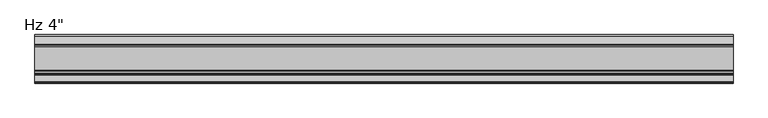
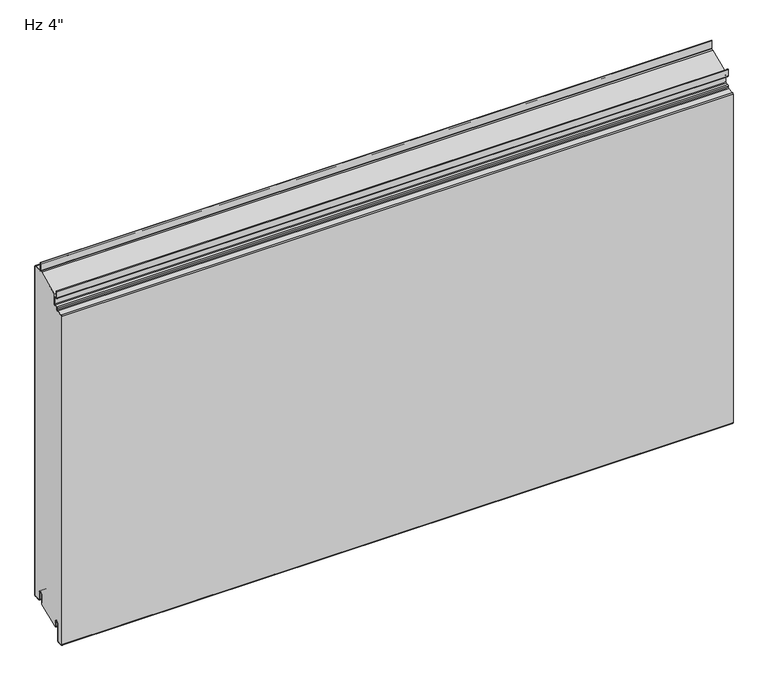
"""IFC4 building model written with IfcOpenShell, lengths in millimetres: plate geometry."""

from ifc_helpers import new_model, si_unit, point, frame, frame_2d, origin, place, context, project, spatial, polyline, circle_curve, ellipse_curve, trimmed, segment, composite_curve, outline, extrude, source, transform, mapped, element, save
from ifc_brep_helpers import plane_surface, cylinder_surface, revolved_surface, extruded_surface, advanced_brep


def plate_a111290b(model_context):
    return source(origin(), model_context, "Body", "SolidModel", [
        extrude(outline(composite_curve([segment(trimmed(circle_curve(frame_2d((-21.43125, 19.05)), 4.96875), [point((-16.4625, 19.05))], [point((-26.4, 19.05))], True, "CARTESIAN"), True, "CONTINUOUS"), segment(polyline([(-26.4, 19.05), (-26.4, -3.1323422), (-74.6157227, -23.01875), (-76.2, -23.01875), (-76.2, -13.5080174), (-76.99375, -13.5080174), (-76.7875, -11.9205174)]), True, "CONTINUOUS"), segment(trimmed(circle_curve(frame_2d((-81.75625, -11.9205174)), 4.96875), [point((-76.7875, -11.9205174))], [point((-86.725, -11.9205174))], True, "CARTESIAN"), True, "CONTINUOUS"), segment(polyline([(-86.725, -11.9205174), (-86.725, -50.1038221)]), True, "CONTINUOUS"), segment(trimmed(circle_curve(frame_2d((-88.10625, -50.1038221)), 1.38125), [point((-86.725, -50.1038221))], [point((-88.033961, -51.4831791))], False, "CARTESIAN"), True, "CONTINUOUS"), segment(polyline([(-88.033961, -51.4831791), (-99.146461, -52.0655606)]), True, "CONTINUOUS"), segment(trimmed(circle_curve(frame_2d((-99.21875, -50.6862035)), 1.38125), [point((-99.146461, -52.0655606))], [point((-100.6, -50.6862035))], False, "CARTESIAN"), True, "CONTINUOUS"), segment(polyline([(-100.6, -50.6862035), (-100.6, 704.9572607)]), True, "CONTINUOUS"), segment(trimmed(circle_curve(frame_2d((-99.21875, 704.9572607)), 1.38125), [point((-100.6, 704.9572607))], [point((-99.291039, 706.3366177))], False, "CARTESIAN"), True, "CONTINUOUS"), segment(polyline([(-99.291039, 706.3366177), (-85.5895807, 707.0546807)]), True, "CONTINUOUS"), segment(trimmed(circle_curve(frame_2d((-85.725, 709.6386347)), 2.5875), [point((-85.5895807, 707.0546807))], [point((-83.1375, 709.6386347))], True, "CARTESIAN"), True, "CONTINUOUS"), segment(polyline([(-83.1375, 709.6386347), (-83.1375, 712.6824411)]), True, "CONTINUOUS"), segment(trimmed(circle_curve(frame_2d((-81.75625, 712.6824411)), 1.38125), [point((-83.1375, 712.6824411))], [point((-81.828539, 714.0617981))], False, "CARTESIAN"), True, "CONTINUOUS"), segment(polyline([(-81.828539, 714.0617981), (-76.0645807, 714.3638744)]), True, "CONTINUOUS"), segment(trimmed(circle_curve(frame_2d((-76.2, 716.9478283)), 2.5875), [point((-76.0645807, 714.3638744))], [point((-73.6125, 716.9478283))], True, "CARTESIAN"), True, "CONTINUOUS"), segment(polyline([(-73.6125, 716.9478283), (-73.6125, 739.3892934), (-24.9057308, 760.20625), (-2.38125, 760.20625)]), True, "CONTINUOUS"), segment(trimmed(circle_curve(frame_2d((-2.38125, 758.825)), 1.38125), [point((-2.38125, 760.20625))], [point((-1.0, 758.825))], False, "CARTESIAN"), True, "CONTINUOUS"), segment(polyline([(-1.0, 758.825), (-1.0, 3.175)]), True, "CONTINUOUS"), segment(trimmed(circle_curve(frame_2d((-2.38125, 3.175)), 1.38125), [point((-1.0, 3.175))], [point((-2.38125, 1.79375))], False, "CARTESIAN"), True, "CONTINUOUS"), segment(polyline([(-2.38125, 1.79375), (-15.08125, 1.79375)]), True, "CONTINUOUS"), segment(trimmed(circle_curve(frame_2d((-15.08125, 3.175)), 1.38125), [point((-15.08125, 1.79375))], [point((-16.4625, 3.175))], False, "CARTESIAN"), True, "CONTINUOUS"), segment(polyline([(-16.4625, 3.175), (-16.4625, 19.05)]), True, "CONTINUOUS")], self_intersect=False)), frame((-730.0, 0.0, 0.0), z_axis=(1.0, 0.0, 0.0), x_axis=(0.0, 1.0, 0.0)), (0.0, 0.0, 1.0), 1460.0),
        extrude(outline(composite_curve([segment(polyline([(-25.4, 0.79375), (-26.4, 0.79375), (-26.4, 19.05)]), True, "CONTINUOUS"), segment(trimmed(circle_curve(frame_2d((-21.43125, 19.05)), 4.96875), [point((-26.4, 19.05))], [point((-16.4625, 19.05))], False, "CARTESIAN"), True, "CONTINUOUS"), segment(polyline([(-16.4625, 19.05), (-16.4625, 3.175)]), True, "CONTINUOUS"), segment(trimmed(circle_curve(frame_2d((-15.08125, 3.175)), 1.38125), [point((-16.4625, 3.175))], [point((-15.08125, 1.79375))], True, "CARTESIAN"), True, "CONTINUOUS"), segment(polyline([(-15.08125, 1.79375), (-2.38125, 1.79375)]), True, "CONTINUOUS"), segment(trimmed(circle_curve(frame_2d((-2.38125, 3.175)), 1.38125), [point((-2.38125, 1.79375))], [point((-1.0, 3.175))], True, "CARTESIAN"), True, "CONTINUOUS"), segment(polyline([(-1.0, 3.175), (-1.0, 758.825)]), True, "CONTINUOUS"), segment(trimmed(circle_curve(frame_2d((-2.38125, 758.825)), 1.38125), [point((-1.0, 758.825))], [point((-2.38125, 760.20625))], True, "CARTESIAN"), True, "CONTINUOUS"), segment(polyline([(-2.38125, 760.20625), (-19.446875, 760.20625)]), True, "CONTINUOUS"), segment(trimmed(circle_curve(frame_2d((-19.446875, 762.79375)), 2.5875), [point((-19.446875, 760.20625))], [point((-22.034375, 762.79375))], False, "CARTESIAN"), True, "CONTINUOUS"), segment(polyline([(-22.034375, 762.79375), (-22.034375, 780.25625), (-21.034375, 780.25625), (-21.034375, 762.79375)]), True, "CONTINUOUS"), segment(trimmed(circle_curve(frame_2d((-19.446875, 762.79375)), 1.5875), [point((-21.034375, 762.79375))], [point((-19.446875, 761.20625))], True, "CARTESIAN"), True, "CONTINUOUS"), segment(polyline([(-19.446875, 761.20625), (-2.38125, 761.20625)]), True, "CONTINUOUS"), segment(trimmed(circle_curve(frame_2d((-2.38125, 758.825)), 2.38125), [point((-2.38125, 761.20625))], [point((0.0, 758.825))], False, "CARTESIAN"), True, "CONTINUOUS"), segment(polyline([(0.0, 758.825), (0.0, 3.175)]), True, "CONTINUOUS"), segment(trimmed(circle_curve(frame_2d((-2.38125, 3.175)), 2.38125), [point((0.0, 3.175))], [point((-2.38125, 0.79375))], False, "CARTESIAN"), True, "CONTINUOUS"), segment(polyline([(-2.38125, 0.79375), (-15.08125, 0.79375)]), True, "CONTINUOUS"), segment(trimmed(circle_curve(frame_2d((-15.08125, 3.175)), 2.38125), [point((-15.08125, 0.79375))], [point((-17.4625, 3.175))], False, "CARTESIAN"), True, "CONTINUOUS"), segment(polyline([(-17.4625, 3.175), (-17.4625, 19.05)]), True, "CONTINUOUS"), segment(trimmed(circle_curve(frame_2d((-21.43125, 19.05)), 3.96875), [point((-17.4625, 19.05))], [point((-25.4, 19.05))], True, "CARTESIAN"), True, "CONTINUOUS"), segment(polyline([(-25.4, 19.05), (-25.4, 0.79375)]), True, "CONTINUOUS")], self_intersect=False)), frame((-730.0, 0.0, 0.0), z_axis=(1.0, 0.0, 0.0), x_axis=(0.0, 1.0, 0.0)), (0.0, 0.0, 1.0), 1460.0),
        advanced_brep(
        [(-730.0, -76.2, -23.2314549), (-730.0, -77.7875, -23.2314549), (-730.0, -77.7875, -11.9205174), (-730.0, -85.725, -11.9205174), (-730.0, -85.725, -50.1038221), (-730.0, -87.981625, -52.4818086), (-730.0, -99.094125, -53.0641901), (-730.0, -101.6, -50.6862035), (-730.0, -101.6, 704.9572607), (-730.0, -99.343375, 707.3352473), (-730.0, -85.6419167, 708.0533103), (-730.0, -84.1375, 709.6386347), (-730.0, -84.1375, 712.6824411), (-730.0, -81.880875, 715.0604276), (-730.0, -76.1169167, 715.3625039), (-730.0, -74.6125, 716.9478283), (-730.0, -74.6125, 731.8232326), (-730.0, -76.2, 733.4107326), (-730.0, -80.3671875, 733.4107326), (-730.0, -82.7484375, 735.7919826), (-730.0, -82.7484375, 750.2836032), (-730.0, -80.9546875, 750.2836032), (-730.0, -80.9546875, 740.5544826), (-730.0, -81.7484375, 740.5544826), (-730.0, -81.7484375, 735.7919826), (-730.0, -80.3671875, 734.4107326), (-730.0, -76.2, 734.4107326), (-730.0, -73.6125, 731.8232326), (-730.0, -73.6125, 716.9478283), (-730.0, -76.0645807, 714.3638744), (-730.0, -81.828539, 714.0617981), (-730.0, -83.1375, 712.6824411), (-730.0, -83.1375, 709.6386347), (-730.0, -85.5895807, 707.0546807), (-730.0, -99.291039, 706.3366177), (-730.0, -100.6, 704.9572607), (-730.0, -100.6, -50.6862035), (-730.0, -99.146461, -52.0655606), (-730.0, -88.033961, -51.4831791), (-730.0, -86.725, -50.1038221), (-730.0, -86.725, -11.9205174), (-730.0, -76.7875, -11.9205174), (-730.0, -76.99375, -13.5080174), (-730.0, -76.2, -13.5080174), (730.0, -76.2, -23.2314549), (730.0, -76.2, -13.5080174), (730.0, -76.99375, -13.5080174), (730.0, -76.7875, -11.9205174), (730.0, -86.725, -11.9205174), (730.0, -86.725, -50.1038221), (730.0, -88.033961, -51.4831791), (730.0, -99.146461, -52.0655606), (730.0, -100.6, -50.6862035), (730.0, -100.6, 704.9572607), (730.0, -99.291039, 706.3366177), (730.0, -85.5895807, 707.0546807), (730.0, -83.1375, 709.6386347), (730.0, -83.1375, 712.6824411), (730.0, -81.828539, 714.0617981), (730.0, -76.0645807, 714.3638744), (730.0, -73.6125, 716.9478283), (730.0, -73.6125, 731.8232326), (730.0, -76.2, 734.4107326), (730.0, -80.3671875, 734.4107326), (730.0, -81.7484375, 735.7919826), (730.0, -81.7484375, 740.5544826), (730.0, -80.9546875, 740.5544826), (730.0, -80.9546875, 750.2836032), (730.0, -82.7484375, 750.2836032), (730.0, -82.7484375, 735.7919826), (730.0, -80.3671875, 733.4107326), (730.0, -76.2, 733.4107326), (730.0, -74.6125, 731.8232326), (730.0, -74.6125, 716.9478283), (730.0, -76.1169167, 715.3625039), (730.0, -81.880875, 715.0604276), (730.0, -84.1375, 712.6824411), (730.0, -84.1375, 709.6386347), (730.0, -85.6419167, 708.0533103), (730.0, -99.343375, 707.3352473), (730.0, -101.6, 704.9572607), (730.0, -101.6, -50.6862035), (730.0, -99.094125, -53.0641901), (730.0, -87.981625, -52.4818086), (730.0, -85.725, -50.1038221), (730.0, -85.725, -11.9205174), (730.0, -77.7875, -11.9205174), (730.0, -77.7875, -23.2314549)],
        [
            (0, 1, circle_curve(frame((-730.0, -76.99375, -23.2314549), z_axis=(-1.0, 0.0, 0.0), x_axis=(0.0, 0.0, 1.0)), 0.79375)),
            (1, 2),
            (2, 3, circle_curve(frame((-730.0, -81.75625, -11.9205174), z_axis=(1.0, 0.0, 0.0), x_axis=(0.0, 0.0, 1.0)), 3.96875)),
            (3, 4),
            (4, 5, circle_curve(frame((-730.0, -88.10625, -50.1038221), z_axis=(-1.0, 0.0, 0.0), x_axis=(0.0, 0.0, 1.0)), 2.38125)),
            (5, 6),
            (6, 7, circle_curve(frame((-730.0, -99.21875, -50.6862035), z_axis=(-1.0, 0.0, 0.0), x_axis=(0.0, 0.0, 1.0)), 2.38125)),
            (7, 8),
            (8, 9, circle_curve(frame((-730.0, -99.21875, 704.9572607), z_axis=(-1.0, 0.0, 0.0), x_axis=(0.0, 0.0, 1.0)), 2.38125)),
            (9, 10),
            (10, 11, circle_curve(frame((-730.0, -85.725, 709.6386347), z_axis=(1.0, 0.0, 0.0), x_axis=(0.0, 0.0, 1.0)), 1.5875)),
            (11, 12),
            (12, 13, circle_curve(frame((-730.0, -81.75625, 712.6824411), z_axis=(-1.0, 0.0, 0.0), x_axis=(0.0, 0.0, 1.0)), 2.38125)),
            (13, 14),
            (14, 15, circle_curve(frame((-730.0, -76.2, 716.9478283), z_axis=(1.0, 0.0, 0.0), x_axis=(0.0, 0.0, 1.0)), 1.5875)),
            (15, 16),
            (16, 17, circle_curve(frame((-730.0, -76.2, 731.8232326), z_axis=(1.0, 0.0, 0.0), x_axis=(0.0, 0.0, 1.0)), 1.5875)),
            (17, 18),
            (18, 19, circle_curve(frame((-730.0, -80.3671875, 735.7919826), z_axis=(-1.0, 0.0, 0.0), x_axis=(0.0, 0.0, 1.0)), 2.38125)),
            (19, 20),
            (20, 21, ellipse_curve(frame((-730.0, -81.8515625, 750.2836032), z_axis=(-1.0, 0.0, 0.0), x_axis=(0.0, 1.0, 0.0)), 0.896875, 0.7852275)),
            (21, 22),
            (22, 23),
            (23, 24),
            (24, 25, circle_curve(frame((-730.0, -80.3671875, 735.7919826), z_axis=(1.0, 0.0, 0.0), x_axis=(0.0, 0.0, 1.0)), 1.38125)),
            (25, 26),
            (26, 27, circle_curve(frame((-730.0, -76.2, 731.8232326), z_axis=(-1.0, 0.0, 0.0), x_axis=(0.0, 0.0, 1.0)), 2.5875)),
            (27, 28),
            (28, 29, circle_curve(frame((-730.0, -76.2, 716.9478283), z_axis=(-1.0, 0.0, 0.0), x_axis=(0.0, 0.0, 1.0)), 2.5875)),
            (29, 30),
            (30, 31, circle_curve(frame((-730.0, -81.75625, 712.6824411), z_axis=(1.0, 0.0, 0.0), x_axis=(0.0, 0.0, 1.0)), 1.38125)),
            (31, 32),
            (32, 33, circle_curve(frame((-730.0, -85.725, 709.6386347), z_axis=(-1.0, 0.0, 0.0), x_axis=(0.0, 0.0, 1.0)), 2.5875)),
            (33, 34),
            (34, 35, circle_curve(frame((-730.0, -99.21875, 704.9572607), z_axis=(1.0, 0.0, 0.0), x_axis=(0.0, 0.0, 1.0)), 1.38125)),
            (35, 36),
            (36, 37, circle_curve(frame((-730.0, -99.21875, -50.6862035), z_axis=(1.0, 0.0, 0.0), x_axis=(0.0, 0.0, 1.0)), 1.38125)),
            (37, 38),
            (38, 39, circle_curve(frame((-730.0, -88.10625, -50.1038221), z_axis=(1.0, 0.0, 0.0), x_axis=(0.0, 0.0, 1.0)), 1.38125)),
            (39, 40),
            (40, 41, circle_curve(frame((-730.0, -81.75625, -11.9205174), z_axis=(-1.0, 0.0, 0.0), x_axis=(0.0, 0.0, 1.0)), 4.96875)),
            (41, 42),
            (42, 43),
            (43, 0),
            (44, 45),
            (45, 46),
            (46, 47),
            (47, 48, circle_curve(frame((730.0, -81.75625, -11.9205174), z_axis=(1.0, 0.0, 0.0), x_axis=(0.0, 0.0, 1.0)), 4.96875)),
            (48, 49),
            (49, 50, circle_curve(frame((730.0, -88.10625, -50.1038221), z_axis=(-1.0, 0.0, 0.0), x_axis=(0.0, 0.0, 1.0)), 1.38125)),
            (50, 51),
            (51, 52, circle_curve(frame((730.0, -99.21875, -50.6862035), z_axis=(-1.0, 0.0, 0.0), x_axis=(0.0, 0.0, 1.0)), 1.38125)),
            (52, 53),
            (53, 54, circle_curve(frame((730.0, -99.21875, 704.9572607), z_axis=(-1.0, 0.0, 0.0), x_axis=(0.0, 0.0, 1.0)), 1.38125)),
            (54, 55),
            (55, 56, circle_curve(frame((730.0, -85.725, 709.6386347), z_axis=(1.0, 0.0, 0.0), x_axis=(0.0, 0.0, 1.0)), 2.5875)),
            (56, 57),
            (57, 58, circle_curve(frame((730.0, -81.75625, 712.6824411), z_axis=(-1.0, 0.0, 0.0), x_axis=(0.0, 0.0, 1.0)), 1.38125)),
            (58, 59),
            (59, 60, circle_curve(frame((730.0, -76.2, 716.9478283), z_axis=(1.0, 0.0, 0.0), x_axis=(0.0, 0.0, 1.0)), 2.5875)),
            (60, 61),
            (61, 62, circle_curve(frame((730.0, -76.2, 731.8232326), z_axis=(1.0, 0.0, 0.0), x_axis=(0.0, 0.0, 1.0)), 2.5875)),
            (62, 63),
            (63, 64, circle_curve(frame((730.0, -80.3671875, 735.7919826), z_axis=(-1.0, 0.0, 0.0), x_axis=(0.0, 0.0, 1.0)), 1.38125)),
            (64, 65),
            (65, 66),
            (66, 67),
            (67, 68, ellipse_curve(frame((730.0, -81.8515625, 750.2836032), z_axis=(1.0, 0.0, 0.0), x_axis=(0.0, 1.0, 0.0)), 0.896875, 0.7852275)),
            (68, 69),
            (69, 70, circle_curve(frame((730.0, -80.3671875, 735.7919826), z_axis=(1.0, 0.0, 0.0), x_axis=(0.0, 0.0, 1.0)), 2.38125)),
            (70, 71),
            (71, 72, circle_curve(frame((730.0, -76.2, 731.8232326), z_axis=(-1.0, 0.0, 0.0), x_axis=(0.0, 0.0, 1.0)), 1.5875)),
            (72, 73),
            (73, 74, circle_curve(frame((730.0, -76.2, 716.9478283), z_axis=(-1.0, 0.0, 0.0), x_axis=(0.0, 0.0, 1.0)), 1.5875)),
            (74, 75),
            (75, 76, circle_curve(frame((730.0, -81.75625, 712.6824411), z_axis=(1.0, 0.0, 0.0), x_axis=(0.0, 0.0, 1.0)), 2.38125)),
            (76, 77),
            (77, 78, circle_curve(frame((730.0, -85.725, 709.6386347), z_axis=(-1.0, 0.0, 0.0), x_axis=(0.0, 0.0, 1.0)), 1.5875)),
            (78, 79),
            (79, 80, circle_curve(frame((730.0, -99.21875, 704.9572607), z_axis=(1.0, 0.0, 0.0), x_axis=(0.0, 0.0, 1.0)), 2.38125)),
            (80, 81),
            (81, 82, circle_curve(frame((730.0, -99.21875, -50.6862035), z_axis=(1.0, 0.0, 0.0), x_axis=(0.0, 0.0, 1.0)), 2.38125)),
            (82, 83),
            (83, 84, circle_curve(frame((730.0, -88.10625, -50.1038221), z_axis=(1.0, 0.0, 0.0), x_axis=(0.0, 0.0, 1.0)), 2.38125)),
            (84, 85),
            (85, 86, circle_curve(frame((730.0, -81.75625, -11.9205174), z_axis=(-1.0, 0.0, 0.0), x_axis=(0.0, 0.0, 1.0)), 3.96875)),
            (86, 87),
            (87, 44, circle_curve(frame((730.0, -76.99375, -23.2314549), z_axis=(1.0, 0.0, 0.0), x_axis=(0.0, 0.0, 1.0)), 0.79375)),
            (23, 65),
            (64, 24),
            (28, 60),
            (59, 29),
            (58, 30),
            (57, 31),
            (56, 32),
            (55, 33),
            (54, 34),
            (53, 35),
            (52, 36),
            (51, 37),
            (50, 38),
            (49, 39),
            (48, 40),
            (43, 45),
            (44, 0),
            (87, 1),
            (86, 2),
            (85, 3),
            (84, 4),
            (83, 5),
            (82, 6),
            (81, 7),
            (80, 8),
            (79, 9),
            (78, 10),
            (77, 11),
            (76, 12),
            (75, 13),
            (74, 14),
            (73, 15),
            (72, 16),
            (71, 17),
            (70, 18),
            (69, 19),
            (68, 20),
            (27, 61),
            (26, 62),
            (25, 63),
            (21, 67),
            (66, 22),
            (41, 47),
            (46, 42),
        ],
        [
            plane_surface(frame((-730.0, -101.6, 381.0), z_axis=(-1.0, 0.0, 0.0), x_axis=(0.0, -1.0, 0.0))),
            plane_surface(frame((730.0, -101.6, 381.0), z_axis=(1.0, 0.0, 0.0), x_axis=(0.0, -1.0, 0.0))),
            plane_surface(frame((-730.0, -81.7484375, 735.7919826), z_axis=(0.0, 1.0, 0.0), x_axis=(1.0, 0.0, 0.0))),
            cylinder_surface(frame((-730.0, -76.2, 716.9478283), z_axis=(-1.0, 0.0, 0.0), x_axis=(0.0, 0.0, 1.0)), 2.5875),
            plane_surface(frame((-730.0, -81.828539, 714.0617981), z_axis=(0.0, 0.0523359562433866, -0.9986295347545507), x_axis=(1.0, 0.0, 0.0))),
            revolved_surface(polyline([(730.0, -81.75625, 714.0636911), (-730.0, -81.75625, 714.0636911)]), (-730.0, -81.75625, 712.6824411), (1.0, 0.0, 0.0)),
            plane_surface(frame((-730.0, -83.1375, 709.6386347), z_axis=(0.0, 1.0, 0.0), x_axis=(1.0, 0.0, 0.0))),
            cylinder_surface(frame((-730.0, -85.725, 709.6386347), z_axis=(-1.0, 0.0, 0.0), x_axis=(0.0, 0.0, 1.0)), 2.5875),
            plane_surface(frame((-730.0, -99.291039, 706.3366177), z_axis=(0.0, 0.05233595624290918, -0.9986295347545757), x_axis=(1.0, 0.0, 0.0))),
            revolved_surface(polyline([(730.0, -99.21875, 706.3385107), (-730.0, -99.21875, 706.3385107)]), (-730.0, -99.21875, 704.9572607), (1.0, 0.0, 0.0)),
            plane_surface(frame((-730.0, -100.6, -50.6862035), z_axis=(0.0, 1.0, 0.0), x_axis=(1.0, 0.0, 0.0))),
            revolved_surface(polyline([(730.0, -99.21875, -49.304953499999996), (-730.0, -99.21875, -49.304953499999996)]), (-730.0, -99.21875, -50.6862035), (1.0, 0.0, 0.0)),
            plane_surface(frame((-730.0, -88.033961, -51.4831791), z_axis=(0.0, -0.05233595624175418, 0.9986295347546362), x_axis=(1.0, 0.0, 0.0))),
            revolved_surface(polyline([(730.0, -88.10625, -48.7225721), (-730.0, -88.10625, -48.7225721)]), (-730.0, -88.10625, -50.1038221), (1.0, 0.0, 0.0)),
            plane_surface(frame((-730.0, -86.725, -11.9205174), z_axis=(0.0, -1.0, 0.0), x_axis=(1.0, 0.0, 0.0))),
            plane_surface(frame((-730.0, -76.2, -23.2314549), z_axis=(0.0, 1.0, 0.0), x_axis=(1.0, 0.0, 0.0))),
            cylinder_surface(frame((-730.0, -76.99375, -23.2314549), z_axis=(-1.0, 0.0, 0.0), x_axis=(0.0, 0.0, 1.0)), 0.79375),
            plane_surface(frame((-730.0, -77.7875, -11.9205174), z_axis=(0.0, -1.0, 0.0), x_axis=(1.0, 0.0, 0.0))),
            revolved_surface(polyline([(730.0, -81.75625, -7.9517674), (-730.0, -81.75625, -7.9517674)]), (-730.0, -81.75625, -11.9205174), (1.0, 0.0, 0.0)),
            plane_surface(frame((-730.0, -85.725, -50.1038221), z_axis=(0.0, 1.0, 0.0), x_axis=(1.0, 0.0, 0.0))),
            cylinder_surface(frame((-730.0, -88.10625, -50.1038221), z_axis=(-1.0, 0.0, 0.0), x_axis=(0.0, 0.0, 1.0)), 2.38125),
            plane_surface(frame((-730.0, -99.094125, -53.0641901), z_axis=(0.0, 0.05233595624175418, -0.9986295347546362), x_axis=(1.0, 0.0, 0.0))),
            cylinder_surface(frame((-730.0, -99.21875, -50.6862035), z_axis=(-1.0, 0.0, 0.0), x_axis=(0.0, 0.0, 1.0)), 2.38125),
            plane_surface(frame((-730.0, -101.6, 704.9572607), z_axis=(0.0, -1.0, 0.0), x_axis=(1.0, 0.0, 0.0))),
            cylinder_surface(frame((-730.0, -99.21875, 704.9572607), z_axis=(-1.0, 0.0, 0.0), x_axis=(0.0, 0.0, 1.0)), 2.38125),
            plane_surface(frame((-730.0, -85.6419167, 708.0533103), z_axis=(0.0, -0.052335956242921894, 0.998629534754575), x_axis=(1.0, 0.0, 0.0))),
            revolved_surface(polyline([(730.0, -85.725, 711.2261347), (-730.0, -85.725, 711.2261347)]), (-730.0, -85.725, 709.6386347), (1.0, 0.0, 0.0)),
            plane_surface(frame((-730.0, -84.1375, 712.6824411), z_axis=(0.0, -1.0, 0.0), x_axis=(1.0, 0.0, 0.0))),
            cylinder_surface(frame((-730.0, -81.75625, 712.6824411), z_axis=(-1.0, 0.0, 0.0), x_axis=(0.0, 0.0, 1.0)), 2.38125),
            plane_surface(frame((-730.0, -76.1169167, 715.3625039), z_axis=(0.0, -0.05233595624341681, 0.9986295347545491), x_axis=(1.0, 0.0, 0.0))),
            revolved_surface(polyline([(730.0, -76.2, 718.5353283), (-730.0, -76.2, 718.5353283)]), (-730.0, -76.2, 716.9478283), (1.0, 0.0, 0.0)),
            plane_surface(frame((-730.0, -74.6125, 731.8232326), z_axis=(0.0, -1.0, 0.0), x_axis=(1.0, 0.0, 0.0))),
            revolved_surface(polyline([(730.0, -76.2, 733.4107326), (-730.0, -76.2, 733.4107326)]), (-730.0, -76.2, 731.8232326), (1.0, 0.0, 0.0)),
            plane_surface(frame((-730.0, -80.3671875, 733.4107326), z_axis=(0.0, 0.0, -1.0), x_axis=(1.0, 0.0, 0.0))),
            cylinder_surface(frame((-730.0, -80.3671875, 735.7919826), z_axis=(-1.0, 0.0, 0.0), x_axis=(0.0, 0.0, 1.0)), 2.38125),
            plane_surface(frame((-730.0, -82.7484375, 750.2836032), z_axis=(0.0, -1.0, 0.0), x_axis=(1.0, 0.0, 0.0))),
            plane_surface(frame((-730.0, -73.6125, 716.9478283), z_axis=(0.0, 1.0, 0.0), x_axis=(1.0, 0.0, 0.0))),
            cylinder_surface(frame((-730.0, -76.2, 731.8232326), z_axis=(-1.0, 0.0, 0.0), x_axis=(0.0, 0.0, 1.0)), 2.5875),
            plane_surface(frame((-730.0, -76.2, 734.4107326), z_axis=(0.0, 0.0, 1.0), x_axis=(1.0, 0.0, 0.0))),
            revolved_surface(polyline([(730.0, -80.3671875, 737.1732326), (-730.0, -80.3671875, 737.1732326)]), (-730.0, -80.3671875, 735.7919826), (1.0, 0.0, 0.0)),
            plane_surface(frame((-730.0, -80.9546875, 740.5544826), z_axis=(0.0, 1.0, 0.0), x_axis=(1.0, 0.0, 0.0))),
            extruded_surface(trimmed(ellipse_curve(frame((-730.0, -81.8515625, 750.2836032), z_axis=(1.0, 0.0, 0.0), x_axis=(0.0, 1.0, 0.0)), 0.896875, 0.7852275), [point((-730.0, -80.9546875, 750.2836032))], [point((-730.0, -82.7484375, 750.2836032))], True, "CARTESIAN"), (1460.0, 0.0, 0.0), 1460.0),
            plane_surface(frame((-730.0, -76.99375, -13.5080174), z_axis=(0.0, 0.9916655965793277, -0.12883844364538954), x_axis=(1.0, 0.0, 0.0))),
            cylinder_surface(frame((-730.0, -81.75625, -11.9205174), z_axis=(-1.0, 0.0, 0.0), x_axis=(0.0, 0.0, 1.0)), 4.96875),
            plane_surface(frame((-730.0, -76.2, -13.5080174), z_axis=(0.0, 0.0, 1.0), x_axis=(1.0, 0.0, 0.0))),
            plane_surface(frame((-730.0, -81.7484375, 740.5544826), z_axis=(0.0, 0.0, -1.0), x_axis=(1.0, 0.0, 0.0))),
        ],
        [
            (0, [[1, 2, 3, 4, 5, 6, 7, 8, 9, 10, 11, 12, 13, 14, 15, 16, 17, 18, 19, 20, 21, 22, 23, 24, 25, 26, 27, 28, 29, 30, 31, 32, 33, 34, 35, 36, 37, 38, 39, 40, 41, 42, 43, 44]]),
            (1, [[45, 46, 47, 48, 49, 50, 51, 52, 53, 54, 55, 56, 57, 58, 59, 60, 61, 62, 63, 64, 65, 66, 67, 68, 69, 70, 71, 72, 73, 74, 75, 76, 77, 78, 79, 80, 81, 82, 83, 84, 85, 86, 87, 88]]),
            (2, [[89, -65, 90, -24]]),
            (3, [[91, -60, 92, -29]]),
            (4, [[-92, -59, 93, -30]]),
            (5, [[-93, -58, 94, -31]]),
            (6, [[-94, -57, 95, -32]]),
            (7, [[-95, -56, 96, -33]]),
            (8, [[-96, -55, 97, -34]]),
            (9, [[-97, -54, 98, -35]]),
            (10, [[-98, -53, 99, -36]]),
            (11, [[-99, -52, 100, -37]]),
            (12, [[-100, -51, 101, -38]]),
            (13, [[-101, -50, 102, -39]]),
            (14, [[-102, -49, 103, -40]]),
            (15, [[104, -45, 105, -44]]),
            (16, [[-105, -88, 106, -1]]),
            (17, [[-106, -87, 107, -2]]),
            (18, [[-107, -86, 108, -3]]),
            (19, [[-108, -85, 109, -4]]),
            (20, [[-109, -84, 110, -5]]),
            (21, [[-110, -83, 111, -6]]),
            (22, [[-111, -82, 112, -7]]),
            (23, [[-112, -81, 113, -8]]),
            (24, [[-113, -80, 114, -9]]),
            (25, [[-114, -79, 115, -10]]),
            (26, [[-115, -78, 116, -11]]),
            (27, [[-116, -77, 117, -12]]),
            (28, [[-117, -76, 118, -13]]),
            (29, [[-118, -75, 119, -14]]),
            (30, [[-119, -74, 120, -15]]),
            (31, [[-120, -73, 121, -16]]),
            (32, [[-121, -72, 122, -17]]),
            (33, [[-122, -71, 123, -18]]),
            (34, [[-123, -70, 124, -19]]),
            (35, [[-124, -69, 125, -20]]),
            (36, [[126, -61, -91, -28]]),
            (37, [[127, -62, -126, -27]]),
            (38, [[128, -63, -127, -26]]),
            (39, [[-90, -64, -128, -25]]),
            (40, [[129, -67, 130, -22]]),
            (41, [[-125, -68, -129, -21]]),
            (42, [[131, -47, 132, -42]]),
            (43, [[-103, -48, -131, -41]]),
            (44, [[-132, -46, -104, -43]]),
            (45, [[-130, -66, -89, -23]]),
        ],
    ),
    ])


if __name__ == "__main__":
    model = new_model("IFC4")
    model_context = context("Model", 3, world=origin())
    ifc_project = project(units=[si_unit("LENGTHUNIT", "METRE", prefix="MILLI")], contexts=[model_context])
    site = spatial("IfcSite", under=ifc_project)
    building = spatial("IfcBuilding", under=site)
    placement = place(None, origin())
    plate_shape = plate_a111290b(model_context)
    element("IfcPlate", 1, ObjectType="KIP-30-DWTR-R19-CP-Hz-F : Hz 4\"", at=placement, inside=building, context=model_context, shape_type="MappedRepresentation", body=[
        mapped(plate_shape, transform((0.0, 0.0, 0.0), x_axis=(1.0, 0.0, 0.0), y_axis=(0.0, 1.0, 0.0), z_axis=(0.0, 0.0, 1.0))),
    ])
    save(model, "model.ifc")
